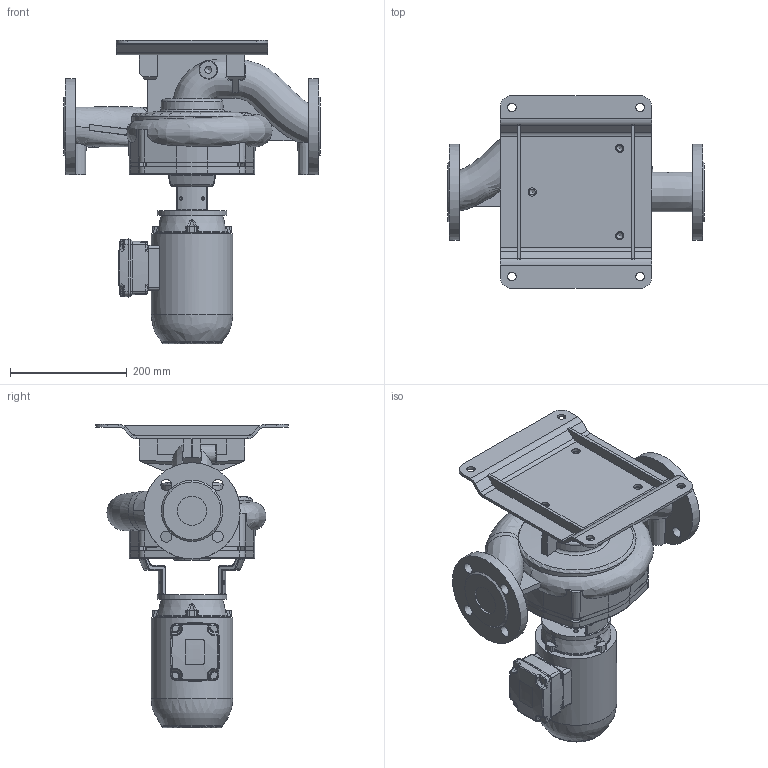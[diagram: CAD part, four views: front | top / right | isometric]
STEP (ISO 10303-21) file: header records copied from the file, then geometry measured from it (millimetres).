
FILE_DESCRIPTION (( 'STEP AP203' ), '1' );
FILE_NAME ('KI50-180_4_0,37kW.STEP', '2024-07-29T11:14:02', ( '' ), ( '' ), 'SwSTEP 2.0', 'SolidWorks 2023', '' );
FILE_SCHEMA (( 'CONFIG_CONTROL_DESIGN' ));
Length unit declared in the file: millimetre
Products named in the file (11): 230482; 230481; KI50-180_4_0,37kW; 230033; 230413; 220542; 230034; 220545; WEG_W21_IEC71_B14_solid; 230412; 230031
Assembly tree (11 placements, depth 3):
  KI50-180_4_0,37kW
    WEG_W21_IEC71_B14_solid
    230413
      230412
    230482
      230481
    220545
      220542
    230034
      230031
      230033  x2
Bounding box: 440 x 330.18 x 520.45 mm (x, y, z)
Volume: 8546399.7 mm3; surface area: 937424.9 mm2
Topology: 6 solids, 7 shells, 873 faces, 2239 edges, 1374 vertices
Faces by surface type: plane 260, cylinder 236, bspline 183, cone 113, torus 67, sphere 14
Full cylindrical faces by diameter (mm): 5 x8, 6 x7, 7 x8, 8 x4, 10.2 x7, 11.8 x4, 14 x4, 14.5 x7, 19 x8, 50 x2, 70 x1, 120 x2, 139.995 x1, 150 x1, 165 x2, 186 x1, 189 x1
Entity records: 49344 total; most frequent: CARTESIAN_POINT 29233, ORIENTED_EDGE 4090, DIRECTION 3666, EDGE_CURVE 2045, AXIS2_PLACEMENT_3D 1478, VERTEX_POINT 1316, EDGE_LOOP 1059, FACE_OUTER_BOUND 934
